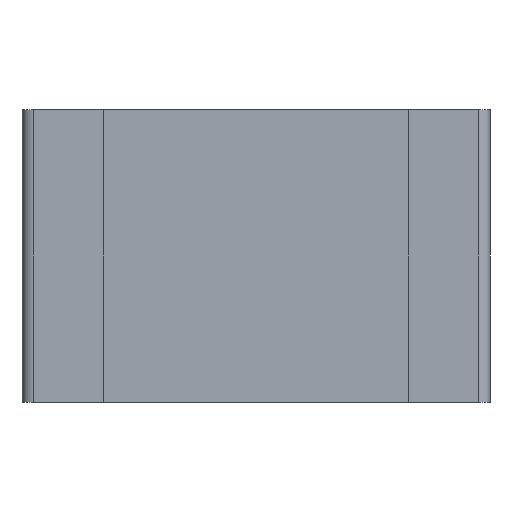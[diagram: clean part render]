
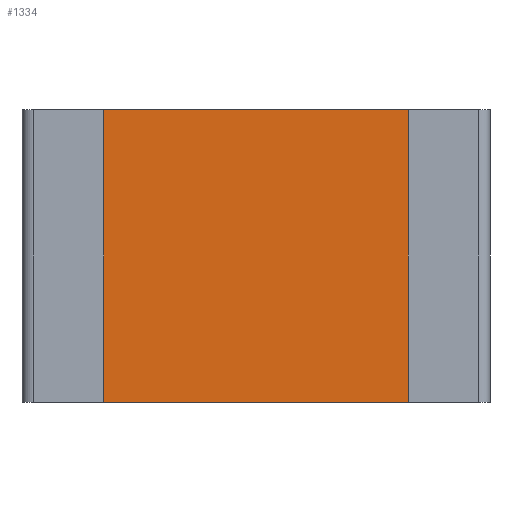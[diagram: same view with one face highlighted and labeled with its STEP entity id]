
A CAD part, front view. The second image highlights one B-rep face of the part: STEP entity #1334.
In plain terms, the highlighted planar face has unit normal (0, -1, 0).
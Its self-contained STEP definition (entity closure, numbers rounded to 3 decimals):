
#1172 = CARTESIAN_POINT ( 'NONE',  ( 0.65, 0., 0.625 ) ) ;
#1173 = VERTEX_POINT ( 'NONE', #1172 ) ;
#1174 = CARTESIAN_POINT ( 'NONE',  ( 0.65, 0., -0.625 ) ) ;
#1175 = VERTEX_POINT ( 'NONE', #1174 ) ;
#1176 = CARTESIAN_POINT ( 'NONE',  ( 0.65, 0., 0.625 ) ) ;
#1177 = DIRECTION ( 'NONE',  ( 0., 0., -1. ) ) ;
#1178 = VECTOR ( 'NONE', #1177, 1000. ) ;
#1179 = LINE ( 'NONE', #1176, #1178 ) ;
#1180 = EDGE_CURVE ( 'NONE', #1173, #1175, #1179, .T. ) ;
#1215 = CARTESIAN_POINT ( 'NONE',  ( -0.65, 0., -0.625 ) ) ;
#1216 = VERTEX_POINT ( 'NONE', #1215 ) ;
#1217 = CARTESIAN_POINT ( 'NONE',  ( -0.65, 0., -0.625 ) ) ;
#1218 = DIRECTION ( 'NONE',  ( -1., 0., 0. ) ) ;
#1219 = VECTOR ( 'NONE', #1218, 1000. ) ;
#1220 = LINE ( 'NONE', #1217, #1219 ) ;
#1221 = EDGE_CURVE ( 'NONE', #1175, #1216, #1220, .T. ) ;
#1249 = CARTESIAN_POINT ( 'NONE',  ( -0.65, 0., 0.625 ) ) ;
#1250 = VERTEX_POINT ( 'NONE', #1249 ) ;
#1251 = CARTESIAN_POINT ( 'NONE',  ( -0.65, 0., 0.625 ) ) ;
#1252 = DIRECTION ( 'NONE',  ( 0., 0., 1. ) ) ;
#1253 = VECTOR ( 'NONE', #1252, 1000. ) ;
#1254 = LINE ( 'NONE', #1251, #1253 ) ;
#1255 = EDGE_CURVE ( 'NONE', #1216, #1250, #1254, .T. ) ;
#1283 = CARTESIAN_POINT ( 'NONE',  ( -0.65, 0., 0.625 ) ) ;
#1284 = DIRECTION ( 'NONE',  ( 1., 0., 0. ) ) ;
#1285 = VECTOR ( 'NONE', #1284, 1000. ) ;
#1286 = LINE ( 'NONE', #1283, #1285 ) ;
#1287 = EDGE_CURVE ( 'NONE', #1250, #1173, #1286, .T. ) ;
#1323 = ORIENTED_EDGE ( 'NONE', *, *, #1180, .F. ) ;
#1324 = ORIENTED_EDGE ( 'NONE', *, *, #1287, .F. ) ;
#1325 = ORIENTED_EDGE ( 'NONE', *, *, #1255, .F. ) ;
#1326 = ORIENTED_EDGE ( 'NONE', *, *, #1221, .F. ) ;
#1327 = EDGE_LOOP ( 'NONE', ( #1323, #1324, #1325, #1326 ) ) ;
#1328 = FACE_OUTER_BOUND ( 'NONE', #1327, .T. ) ;
#1329 = CARTESIAN_POINT ( 'NONE',  ( 0., 0., 0. ) ) ;
#1330 = DIRECTION ( 'NONE',  ( 0., -1., 0. ) ) ;
#1331 = DIRECTION ( 'NONE',  ( 0., 0., -1. ) ) ;
#1332 = AXIS2_PLACEMENT_3D ( 'NONE', #1329, #1330, #1331 ) ;
#1333 = PLANE ( 'NONE', #1332 ) ;
#1334 = ADVANCED_FACE ( 'NONE', ( #1328 ), #1333, .T. ) ;
